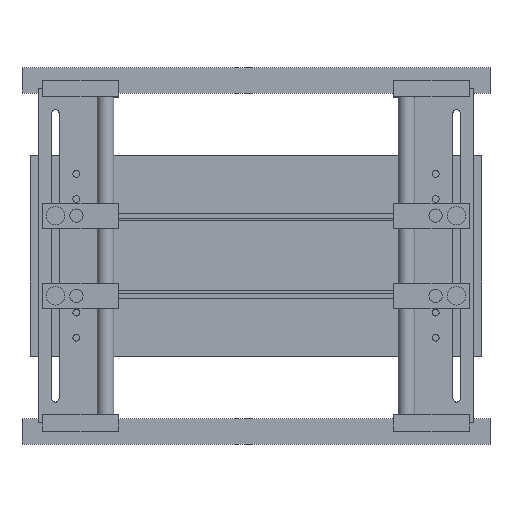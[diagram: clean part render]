
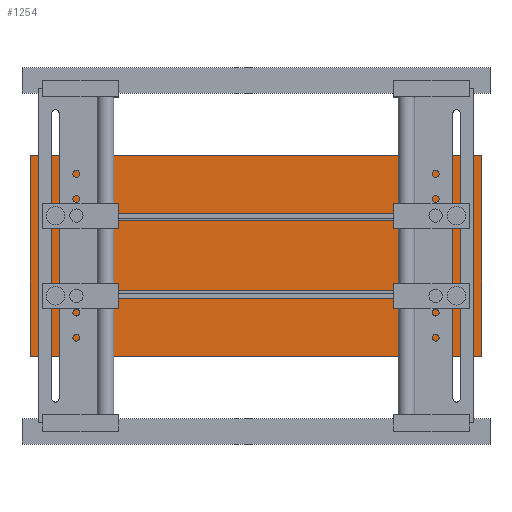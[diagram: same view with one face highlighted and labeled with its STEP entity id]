
A CAD part, top view. The second image highlights one B-rep face of the part: STEP entity #1254.
In plain terms, the highlighted planar face has unit normal (0, 0, 1).
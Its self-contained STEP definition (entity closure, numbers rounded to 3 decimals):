
#940 = VERTEX_POINT('',#941);
#941 = CARTESIAN_POINT('',(-270.,-120.,90.));
#948 = PLANE('',#949);
#949 = AXIS2_PLACEMENT_3D('',#950,#951,#952);
#950 = CARTESIAN_POINT('',(-270.,-120.,86.));
#951 = DIRECTION('',(1.,0.,0.));
#952 = DIRECTION('',(0.,0.,1.));
#960 = PLANE('',#961);
#961 = AXIS2_PLACEMENT_3D('',#962,#963,#964);
#962 = CARTESIAN_POINT('',(-270.,-120.,86.));
#963 = DIRECTION('',(0.,1.,0.));
#964 = DIRECTION('',(0.,0.,1.));
#1001 = VERTEX_POINT('',#1002);
#1002 = CARTESIAN_POINT('',(-270.,120.,90.));
#1016 = PLANE('',#1017);
#1017 = AXIS2_PLACEMENT_3D('',#1018,#1019,#1020);
#1018 = CARTESIAN_POINT('',(-270.,120.,86.));
#1019 = DIRECTION('',(0.,1.,0.));
#1020 = DIRECTION('',(0.,0.,1.));
#1028 = EDGE_CURVE('',#940,#1001,#1029,.T.);
#1029 = SURFACE_CURVE('',#1030,(#1034,#1041),.PCURVE_S1.);
#1030 = LINE('',#1031,#1032);
#1031 = CARTESIAN_POINT('',(-270.,-120.,90.));
#1032 = VECTOR('',#1033,1.);
#1033 = DIRECTION('',(0.,1.,0.));
#1034 = PCURVE('',#948,#1035);
#1035 = DEFINITIONAL_REPRESENTATION('',(#1036),#1040);
#1036 = LINE('',#1037,#1038);
#1037 = CARTESIAN_POINT('',(4.,0.));
#1038 = VECTOR('',#1039,1.);
#1039 = DIRECTION('',(0.,-1.));
#1040 = ( GEOMETRIC_REPRESENTATION_CONTEXT(2) 
PARAMETRIC_REPRESENTATION_CONTEXT() REPRESENTATION_CONTEXT('2D SPACE',''
  ) );
#1041 = PCURVE('',#1042,#1047);
#1042 = PLANE('',#1043);
#1043 = AXIS2_PLACEMENT_3D('',#1044,#1045,#1046);
#1044 = CARTESIAN_POINT('',(-270.,-120.,90.));
#1045 = DIRECTION('',(0.,0.,1.));
#1046 = DIRECTION('',(1.,0.,0.));
#1047 = DEFINITIONAL_REPRESENTATION('',(#1048),#1052);
#1048 = LINE('',#1049,#1050);
#1049 = CARTESIAN_POINT('',(0.,0.));
#1050 = VECTOR('',#1051,1.);
#1051 = DIRECTION('',(0.,1.));
#1052 = ( GEOMETRIC_REPRESENTATION_CONTEXT(2) 
PARAMETRIC_REPRESENTATION_CONTEXT() REPRESENTATION_CONTEXT('2D SPACE',''
  ) );
#1060 = VERTEX_POINT('',#1061);
#1061 = CARTESIAN_POINT('',(270.,-120.,90.));
#1068 = PLANE('',#1069);
#1069 = AXIS2_PLACEMENT_3D('',#1070,#1071,#1072);
#1070 = CARTESIAN_POINT('',(270.,-120.,86.));
#1071 = DIRECTION('',(1.,0.,0.));
#1072 = DIRECTION('',(0.,0.,1.));
#1111 = VERTEX_POINT('',#1112);
#1112 = CARTESIAN_POINT('',(270.,120.,90.));
#1133 = EDGE_CURVE('',#1060,#1111,#1134,.T.);
#1134 = SURFACE_CURVE('',#1135,(#1139,#1146),.PCURVE_S1.);
#1135 = LINE('',#1136,#1137);
#1136 = CARTESIAN_POINT('',(270.,-120.,90.));
#1137 = VECTOR('',#1138,1.);
#1138 = DIRECTION('',(0.,1.,0.));
#1139 = PCURVE('',#1068,#1140);
#1140 = DEFINITIONAL_REPRESENTATION('',(#1141),#1145);
#1141 = LINE('',#1142,#1143);
#1142 = CARTESIAN_POINT('',(4.,0.));
#1143 = VECTOR('',#1144,1.);
#1144 = DIRECTION('',(0.,-1.));
#1145 = ( GEOMETRIC_REPRESENTATION_CONTEXT(2) 
PARAMETRIC_REPRESENTATION_CONTEXT() REPRESENTATION_CONTEXT('2D SPACE',''
  ) );
#1146 = PCURVE('',#1042,#1147);
#1147 = DEFINITIONAL_REPRESENTATION('',(#1148),#1152);
#1148 = LINE('',#1149,#1150);
#1149 = CARTESIAN_POINT('',(540.,0.));
#1150 = VECTOR('',#1151,1.);
#1151 = DIRECTION('',(0.,1.));
#1152 = ( GEOMETRIC_REPRESENTATION_CONTEXT(2) 
PARAMETRIC_REPRESENTATION_CONTEXT() REPRESENTATION_CONTEXT('2D SPACE',''
  ) );
#1179 = EDGE_CURVE('',#940,#1060,#1180,.T.);
#1180 = SURFACE_CURVE('',#1181,(#1185,#1192),.PCURVE_S1.);
#1181 = LINE('',#1182,#1183);
#1182 = CARTESIAN_POINT('',(-270.,-120.,90.));
#1183 = VECTOR('',#1184,1.);
#1184 = DIRECTION('',(1.,0.,0.));
#1185 = PCURVE('',#960,#1186);
#1186 = DEFINITIONAL_REPRESENTATION('',(#1187),#1191);
#1187 = LINE('',#1188,#1189);
#1188 = CARTESIAN_POINT('',(4.,0.));
#1189 = VECTOR('',#1190,1.);
#1190 = DIRECTION('',(0.,1.));
#1191 = ( GEOMETRIC_REPRESENTATION_CONTEXT(2) 
PARAMETRIC_REPRESENTATION_CONTEXT() REPRESENTATION_CONTEXT('2D SPACE',''
  ) );
#1192 = PCURVE('',#1042,#1193);
#1193 = DEFINITIONAL_REPRESENTATION('',(#1194),#1198);
#1194 = LINE('',#1195,#1196);
#1195 = CARTESIAN_POINT('',(0.,0.));
#1196 = VECTOR('',#1197,1.);
#1197 = DIRECTION('',(1.,0.));
#1198 = ( GEOMETRIC_REPRESENTATION_CONTEXT(2) 
PARAMETRIC_REPRESENTATION_CONTEXT() REPRESENTATION_CONTEXT('2D SPACE',''
  ) );
#1226 = EDGE_CURVE('',#1001,#1111,#1227,.T.);
#1227 = SURFACE_CURVE('',#1228,(#1232,#1239),.PCURVE_S1.);
#1228 = LINE('',#1229,#1230);
#1229 = CARTESIAN_POINT('',(-270.,120.,90.));
#1230 = VECTOR('',#1231,1.);
#1231 = DIRECTION('',(1.,0.,0.));
#1232 = PCURVE('',#1016,#1233);
#1233 = DEFINITIONAL_REPRESENTATION('',(#1234),#1238);
#1234 = LINE('',#1235,#1236);
#1235 = CARTESIAN_POINT('',(4.,0.));
#1236 = VECTOR('',#1237,1.);
#1237 = DIRECTION('',(0.,1.));
#1238 = ( GEOMETRIC_REPRESENTATION_CONTEXT(2) 
PARAMETRIC_REPRESENTATION_CONTEXT() REPRESENTATION_CONTEXT('2D SPACE',''
  ) );
#1239 = PCURVE('',#1042,#1240);
#1240 = DEFINITIONAL_REPRESENTATION('',(#1241),#1245);
#1241 = LINE('',#1242,#1243);
#1242 = CARTESIAN_POINT('',(0.,240.));
#1243 = VECTOR('',#1244,1.);
#1244 = DIRECTION('',(1.,0.));
#1245 = ( GEOMETRIC_REPRESENTATION_CONTEXT(2) 
PARAMETRIC_REPRESENTATION_CONTEXT() REPRESENTATION_CONTEXT('2D SPACE',''
  ) );
#1254 = ADVANCED_FACE('',(#1255),#1042,.T.);
#1255 = FACE_BOUND('',#1256,.T.);
#1256 = EDGE_LOOP('',(#1257,#1258,#1259,#1260));
#1257 = ORIENTED_EDGE('',*,*,#1028,.F.);
#1258 = ORIENTED_EDGE('',*,*,#1179,.T.);
#1259 = ORIENTED_EDGE('',*,*,#1133,.T.);
#1260 = ORIENTED_EDGE('',*,*,#1226,.F.);
